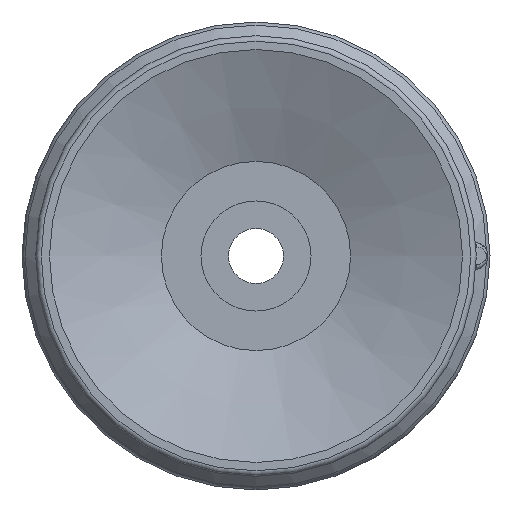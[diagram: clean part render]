
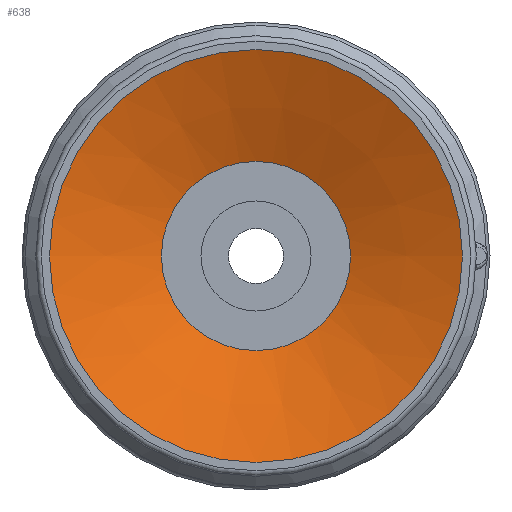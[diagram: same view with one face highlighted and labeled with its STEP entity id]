
A CAD part, front view. The second image highlights one B-rep face of the part: STEP entity #638.
In plain terms, the highlighted conical face has half-angle 67.5 degrees and reference radius 3.437 mm.
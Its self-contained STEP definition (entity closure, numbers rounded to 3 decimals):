
#638=ADVANCED_FACE('',(#900,#901),#902,.F.);
#900=FACE_BOUND('',#2194,.T.);
#901=FACE_OUTER_BOUND('',#2195,.T.);
#902=CONICAL_SURFACE('',#2196,3.437,1.178);
#2194=EDGE_LOOP('',(#2901));
#2195=EDGE_LOOP('',(#2902));
#2196=AXIS2_PLACEMENT_3D('',#2903,#2904,#2905);
#2901=ORIENTED_EDGE('',*,*,#3166,.F.);
#2902=ORIENTED_EDGE('',*,*,#3167,.T.);
#2903=CARTESIAN_POINT('',(0.0,0.0,1.683));
#2904=DIRECTION('',(0.0,0.,-1.0));
#2905=DIRECTION('',(0.0,1.0,0.));
#3166=EDGE_CURVE('',#3514,#3514,#3515,.T.);
#3167=EDGE_CURVE('',#3516,#3516,#3517,.T.);
#3514=VERTEX_POINT('',#4419);
#3515=CIRCLE('',#4420,3.437);
#3516=VERTEX_POINT('',#4421);
#3517=CIRCLE('',#4422,7.5);
#4419=CARTESIAN_POINT('',(-3.437,0.0,1.683));
#4420=AXIS2_PLACEMENT_3D('',#4710,#4711,#4712);
#4421=CARTESIAN_POINT('',(-7.5,0.0,0.));
#4422=AXIS2_PLACEMENT_3D('',#4713,#4714,#4715);
#4710=CARTESIAN_POINT('',(0.0,0.0,1.683));
#4711=DIRECTION('',(0.0,0.,-1.0));
#4712=DIRECTION('',(0.0,1.0,0.));
#4713=CARTESIAN_POINT('',(0.0,0.0,0.));
#4714=DIRECTION('',(0.0,0.,-1.0));
#4715=DIRECTION('',(0.0,1.0,0.));
